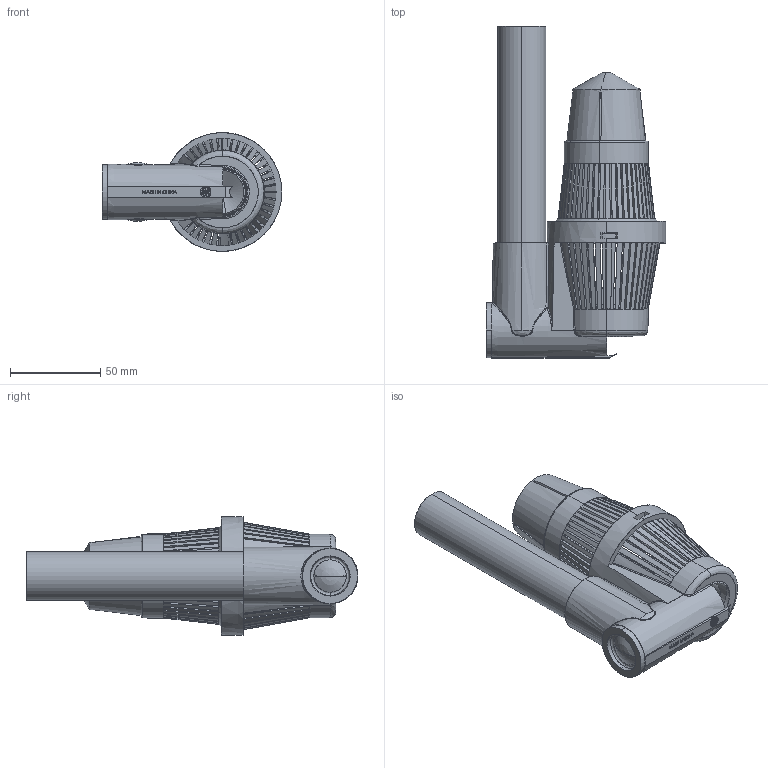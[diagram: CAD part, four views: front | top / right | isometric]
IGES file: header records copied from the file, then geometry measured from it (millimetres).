
Start section: SolidWorks IGES file using analytic representation for surfaces
Global section: file name: P:\Drawings CAD & PDF's for Customers\Brine Tanks  distributor misc\494 brine body and air check\494 Air Check.IGS; native system: SolidWorks 2009; preprocessor: SolidWorks 2009; author: heidenre; date: 090501.114739; units: inch
Bounding box: 99.52 x 183.91 x 65.85 mm (x, y, z)
Surface area: 94803.3 mm2 (no closed solid volume)
Topology: 0 solids, 0 shells, 531 faces, 6775 edges, 6774 vertices
Faces by surface type: bspline 415, revolution 116
